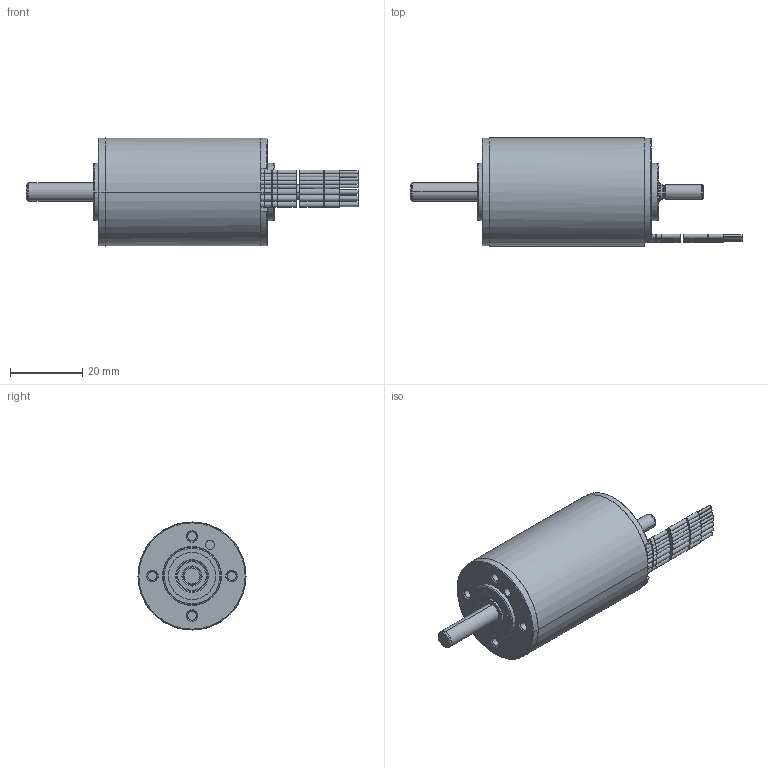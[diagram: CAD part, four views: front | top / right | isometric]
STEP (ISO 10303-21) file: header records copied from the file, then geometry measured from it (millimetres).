
FILE_DESCRIPTION((''),'2;1');
FILE_NAME('309755_EC-4POLE_100W','2016-10-14T',('mmagpetk'),(''),'CREO PARAMETRIC BY PTC INC, 2016050','CREO PARAMETRIC BY PTC INC, 2016050','');
FILE_SCHEMA(('CONFIG_CONTROL_DESIGN'));
Length unit declared in the file: millimetre
Products named in the file (1): 309755_EC-4POLE_100W
Bounding box: 92.2 x 30 x 30 mm (x, y, z)
Volume: 34327.7 mm3; surface area: 7956.6 mm2
Topology: 6 solids, 8 shells, 282 faces, 635 edges, 396 vertices
Faces by surface type: cylinder 137, plane 48, bspline 36, cone 33, torus 28
Entity records: 11167 total; most frequent: CARTESIAN_POINT 2097, DIRECTION 1502, ORIENTED_EDGE 1266, PRESENTATION_STYLE_ASSIGNMENT 713, AXIS2_PLACEMENT_3D 661, STYLED_ITEM 639, CURVE_STYLE 633, EDGE_CURVE 633
